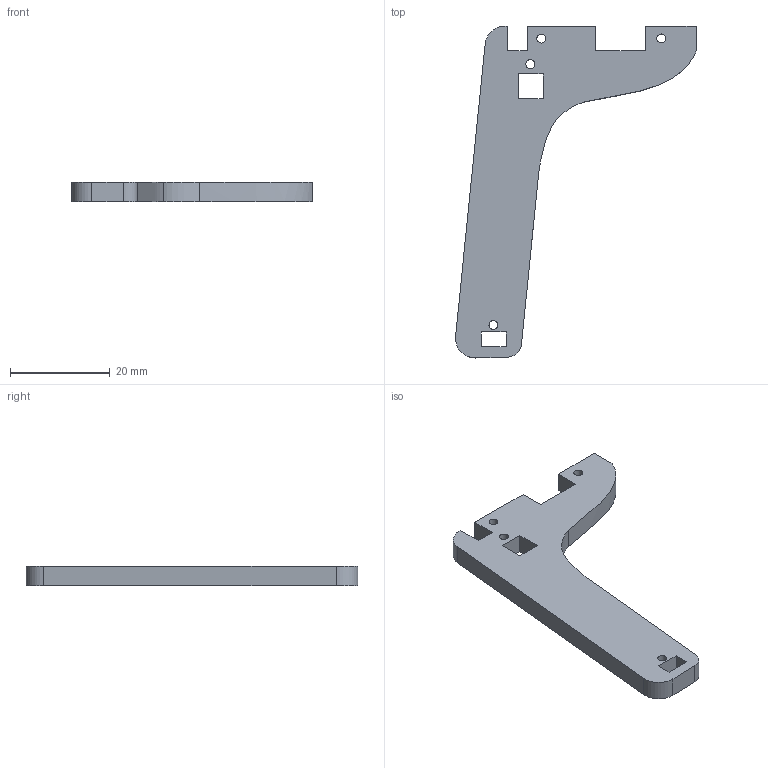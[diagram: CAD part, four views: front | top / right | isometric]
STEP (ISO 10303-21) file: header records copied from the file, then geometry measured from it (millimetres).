
FILE_DESCRIPTION(/* description */ (''),/* implementation_level */ '2;1');
FILE_NAME(/* name */ 'C3_Neck_Side.step',/* time_stamp */ '2025-09-23T19:21:08+01:00',/* author */ (''),/* organization */ (''),/* preprocessor_version */ 'ST-DEVELOPER v20.1',/* originating_system */ 'Autodesk Translation Framework v14.17.0.0',/* authorisation */ '');
FILE_SCHEMA (('AUTOMOTIVE_DESIGN { 1 0 10303 214 3 1 1 }'));
Length unit declared in the file: millimetre
Products named in the file (1): C3_Neck_Side
Bounding box: 48.31 x 66.55 x 4 mm (x, y, z)
Volume: 4661 mm3; surface area: 3459.6 mm2
Topology: 1 solids, 1 shells, 34 faces, 96 edges, 64 vertices
Faces by surface type: plane 24, cylinder 9, bspline 1
Full cylindrical faces by diameter (mm): 1.8 x4
Entity records: 1202 total; most frequent: CARTESIAN_POINT 252, ORIENTED_EDGE 192, DIRECTION 180, EDGE_CURVE 96, LINE 76, VECTOR 76, VERTEX_POINT 64, AXIS2_PLACEMENT_3D 52
